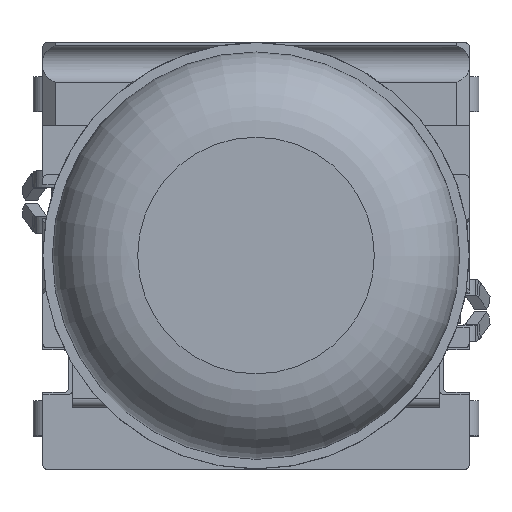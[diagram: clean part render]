
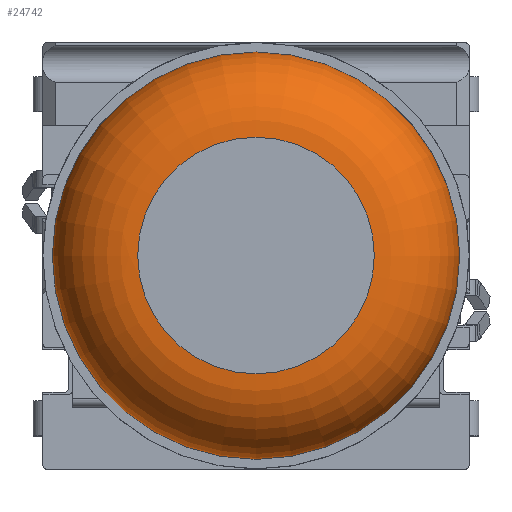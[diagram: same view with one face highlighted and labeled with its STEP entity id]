
A CAD part, top view. The second image highlights one B-rep face of the part: STEP entity #24742.
In plain terms, the highlighted toroidal (fillet/blend) face has major radius 2.775 mm and minor radius 2 mm.
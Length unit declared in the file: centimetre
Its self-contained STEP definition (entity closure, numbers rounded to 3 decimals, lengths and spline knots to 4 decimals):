
#6601=FACE_BOUND($,#7999,.T.);
#6712=FACE_OUTER_BOUND($,#7998,.T.);
#7998=EDGE_LOOP($,(#16069));
#7999=EDGE_LOOP($,(#16070));
#9395=CIRCLE($,#26052,0.2775);
#9396=CIRCLE($,#26053,0.4775);
#10040=VERTEX_POINT($,#34068);
#10041=VERTEX_POINT($,#34070);
#12427=EDGE_CURVE($,#10040,#10040,#9395,.T.);
#12428=EDGE_CURVE($,#10041,#10041,#9396,.T.);
#16069=ORIENTED_EDGE($,*,*,#12427,.T.);
#16070=ORIENTED_EDGE($,*,*,#12428,.F.);
#23369=TOROIDAL_SURFACE($,#26051,0.2775,0.2);
#24742=ADVANCED_FACE($,(#6712,#6601),#23369,.T.);
#26051=AXIS2_PLACEMENT_3D($,#34067,#27940,#27941);
#26052=AXIS2_PLACEMENT_3D($,#34069,#27942,#27943);
#26053=AXIS2_PLACEMENT_3D($,#34071,#27944,#27945);
#27940=DIRECTION('center_axis',(0.,0.,
1.));
#27941=DIRECTION('ref_axis',(1.,0.,0.));
#27942=DIRECTION('center_axis',(0.,0.,
-1.));
#27943=DIRECTION('ref_axis',(-1.,0.,0.));
#27944=DIRECTION('center_axis',(0.,0.,
-1.));
#27945=DIRECTION('ref_axis',(-1.,0.,0.));
#34067=CARTESIAN_POINT('Origin',(0.,0.,
0.851));
#34068=CARTESIAN_POINT('',(-0.2775,0.,1.051));
#34069=CARTESIAN_POINT('Origin',(0.,0.,
1.051));
#34070=CARTESIAN_POINT('',(-0.4775,0.,0.8527));
#34071=CARTESIAN_POINT('Origin',(0.,0.,
0.8527));
